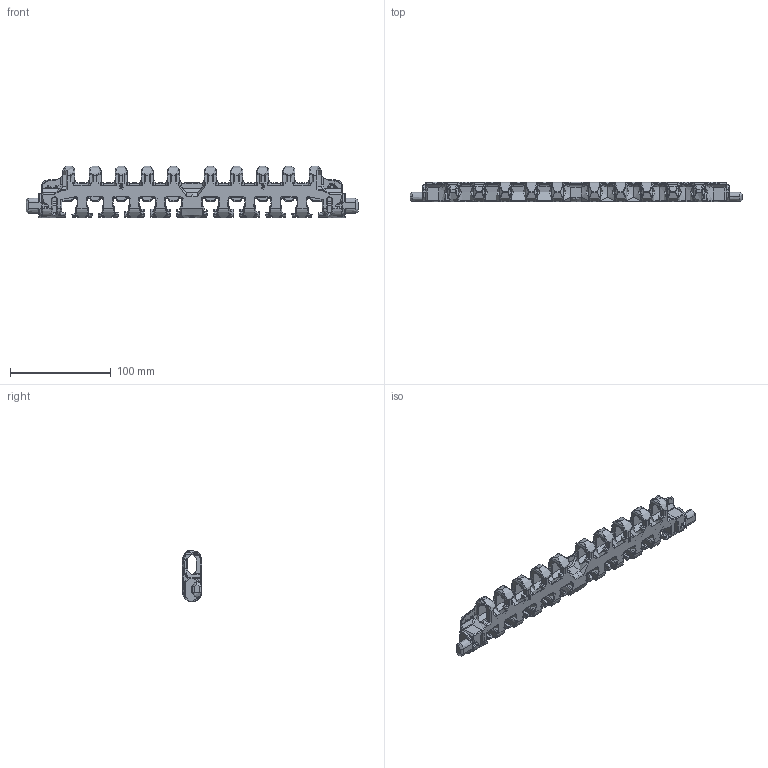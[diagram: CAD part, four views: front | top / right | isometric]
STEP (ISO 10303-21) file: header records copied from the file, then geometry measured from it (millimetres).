
FILE_DESCRIPTION (( 'STEP AP214' ), '1' );
FILE_NAME ('F2-1200-TAPIS.STEP', '2011-04-14T11:36:12', ( '.' ), ( '' ), 'SwSTEP 2.0', 'SolidWorks 2010', '' );
FILE_SCHEMA (( 'AUTOMOTIVE_DESIGN' ));
Length unit declared in the file: millimetre
Products named in the file (1): F2-1200-TAPIS
Bounding box: 330.2 x 19.05 x 51 mm (x, y, z)
Topology: 0 solids, 15 shells, 2824 faces, 7443 edges, 4487 vertices
Faces by surface type: bspline 1320, cylinder 1079, plane 425
Entity records: 177197 total; most frequent: CARTESIAN_POINT 120678, ORIENTED_EDGE 13793, DIRECTION 8187, EDGE_CURVE 7375, VERTEX_POINT 4486, AXIS2_PLACEMENT_3D 3205, B_SPLINE_CURVE_WITH_KNOTS 2949, EDGE_LOOP 2854
